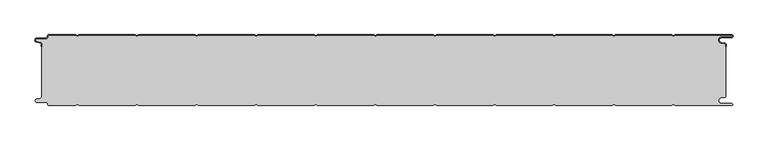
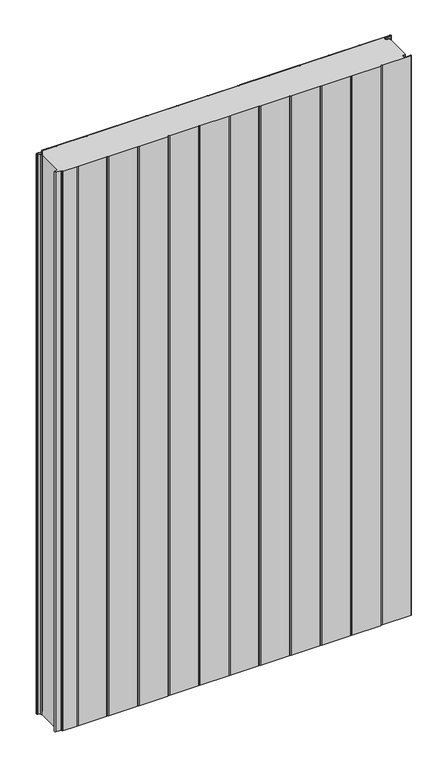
"""IFC4 building model written with IfcOpenShell, lengths in millimetres: plate geometry, PM1_Curtain-Panel_Perfil-Frigorífico : ACH_PM1_Panel-Acústico-Sectorización_120M."""

from ifc_helpers import new_model, si_unit, point, frame, frame_2d, origin, origin_with_axes, place, context, project, spatial, polyline, circle_curve, trimmed, segment, composite_curve, outline, extrude, source, transform, mapped, element, save
from ifc_brep_helpers import plane_surface, cylinder_surface, revolved_surface, advanced_brep


def plate_490ffd24(model_context):
    return source(origin(), model_context, "Body", "SolidModel", [
        advanced_brep(
        [(-575.0, -15.878557, 1945.7507136), (-575.0, -20.0, 1945.7507136), (-574.2, -20.0, 1945.7507136), (-574.2, -15.878557, 1945.7507136), (-576.370137, -13.1503208, 1945.7507136), (-582.529863, -11.728236, 1945.7507136), (-581.9, -6.2, 1945.7507136), (-566.4, -6.2, 1945.7507136), (-563.6, -3.4, 1945.7507136), (-563.6, -2.0, 1945.7507136), (-562.4, -0.8, 1945.7507136), (-517.3143588, -0.8, 1945.7507136), (-514.4, -2.482606, 1945.7507136), (-511.4856412, -0.8, 1945.7507136), (-417.3143588, -0.8, 1945.7507136), (-414.4, -2.482606, 1945.7507136), (-411.4856412, -0.8, 1945.7507136), (-317.3143588, -0.8, 1945.7507136), (-314.4, -2.482606, 1945.7507136), (-311.4856412, -0.8, 1945.7507136), (-217.3143588, -0.8, 1945.7507136), (-214.4, -2.482606, 1945.7507136), (-211.4856412, -0.8, 1945.7507136), (-117.3143588, -0.8, 1945.7507136), (-114.4, -2.482606, 1945.7507136), (-111.4856412, -0.8, 1945.7507136), (-17.3143588, -0.8, 1945.7507136), (-14.4, -2.482606, 1945.7507136), (-11.4856412, -0.8, 1945.7507136), (82.6856412, -0.8, 1945.7507136), (85.6, -2.482606, 1945.7507136), (88.5143588, -0.8, 1945.7507136), (182.6856412, -0.8, 1945.7507136), (185.6, -2.482606, 1945.7507136), (188.5143588, -0.8, 1945.7507136), (282.6856412, -0.8, 1945.7507136), (285.6, -2.482606, 1945.7507136), (288.5143588, -0.8, 1945.7507136), (382.6856412, -0.8, 1945.7507136), (385.6, -2.482606, 1945.7507136), (388.5143588, -0.8, 1945.7507136), (482.6856412, -0.8, 1945.7507136), (485.6, -2.482606, 1945.7507136), (488.5143588, -0.8, 1945.7507136), (583.1, -0.8, 1945.7507136), (583.1, -4.2, 1945.7507136), (566.1, -4.2, 1945.7507136), (565.2664884, -13.7270771, 1945.7507136), (571.7125669, -14.8636953, 1945.7507136), (573.2, -16.6363492, 1945.7507136), (573.2, -20.0, 1945.7507136), (574.0, -20.0, 1945.7507136), (574.0, -16.6363492, 1945.7507136), (571.8514855, -14.0758491, 1945.7507136), (565.405407, -12.939231, 1945.7507136), (566.1, -5.0, 1945.7507136), (583.1, -5.0, 1945.7507136), (585.6, -2.5, 1945.7507136), (583.1, 0.0, 1945.7507136), (488.2999995, 0.0, 1945.7507136), (485.6, -1.5588455, 1945.7507136), (482.9000005, 0.0, 1945.7507136), (388.2999995, 0.0, 1945.7507136), (385.6, -1.5588455, 1945.7507136), (382.9000005, 0.0, 1945.7507136), (288.2999995, 0.0, 1945.7507136), (285.6, -1.5588455, 1945.7507136), (282.9000005, 0.0, 1945.7507136), (188.2999995, 0.0, 1945.7507136), (185.6, -1.5588455, 1945.7507136), (182.9000005, 0.0, 1945.7507136), (88.2999995, 0.0, 1945.7507136), (85.6, -1.5588455, 1945.7507136), (82.9000005, 0.0, 1945.7507136), (-11.7000005, 0.0, 1945.7507136), (-14.4, -1.5588455, 1945.7507136), (-17.0999995, 0.0, 1945.7507136), (-111.7000005, 0.0, 1945.7507136), (-114.4, -1.5588455, 1945.7507136), (-117.0999995, 0.0, 1945.7507136), (-211.7000005, 0.0, 1945.7507136), (-214.4, -1.5588455, 1945.7507136), (-217.0999995, 0.0, 1945.7507136), (-311.7000005, 0.0, 1945.7507136), (-314.4, -1.5588455, 1945.7507136), (-317.0999995, 0.0, 1945.7507136), (-411.7000005, 0.0, 1945.7507136), (-414.4, -1.5588455, 1945.7507136), (-417.0999995, 0.0, 1945.7507136), (-511.7000005, 0.0, 1945.7507136), (-514.4, -1.5588455, 1945.7507136), (-517.0999995, 0.0, 1945.7507136), (-562.4, 0.0, 1945.7507136), (-564.4, -2.0, 1945.7507136), (-564.4, -3.4, 1945.7507136), (-566.4, -5.4, 1945.7507136), (-581.9, -5.4, 1945.7507136), (-582.7098239, -12.5077322, 1945.7507136), (-576.5500979, -13.929817, 1945.7507136), (-575.0, -15.878557, 0.0), (-576.5500978, -13.9298169, 0.0), (-582.7098239, -12.507732, 0.0), (-581.9, -5.4, 0.0), (-566.4, -5.4, 0.0), (-564.4, -3.4, 0.0), (-564.4, -2.0, 0.0), (-562.4, 0.0, 0.0), (-517.0999995, 0.0, 0.0), (-514.4, -1.5588455, 0.0), (-511.7000005, 0.0, 0.0), (-417.0999995, 0.0, 0.0), (-414.4, -1.5588455, 0.0), (-411.7000005, 0.0, 0.0), (-317.0999995, 0.0, 0.0), (-314.4, -1.5588455, 0.0), (-311.7000005, 0.0, 0.0), (-217.0999995, 0.0, 0.0), (-214.4, -1.5588455, 0.0), (-211.7000005, 0.0, 0.0), (-117.0999995, 0.0, 0.0), (-114.4, -1.5588455, 0.0), (-111.7000005, 0.0, 0.0), (-17.0999995, 0.0, 0.0), (-14.4, -1.5588455, 0.0), (-11.7000005, 0.0, 0.0), (82.9000005, 0.0, 0.0), (85.6, -1.5588455, 0.0), (88.2999995, 0.0, 0.0), (182.9000005, 0.0, 0.0), (185.6, -1.5588455, 0.0), (188.2999995, 0.0, 0.0), (282.9000005, 0.0, 0.0), (285.6, -1.5588455, 0.0), (288.2999995, 0.0, 0.0), (382.9000005, 0.0, 0.0), (385.6, -1.5588455, 0.0), (388.2999995, 0.0, 0.0), (482.9000005, 0.0, 0.0), (485.6, -1.5588455, 0.0), (488.2999995, 0.0, 0.0), (583.1, 0.0, 0.0), (585.6, -2.5, 0.0), (583.1, -5.0, 0.0), (566.1, -5.0, 0.0), (565.405407, -12.939231, 0.0), (571.8514855, -14.0758491, 0.0), (574.0, -16.6363492, 0.0), (574.0, -20.0, 0.0), (573.2, -20.0, 0.0), (573.2, -16.6363492, 0.0), (571.7125669, -14.8636953, 0.0), (565.2664884, -13.7270772, 0.0), (566.1, -4.2, 0.0), (583.1, -4.2, 0.0), (583.1, -0.8, 0.0), (488.5143588, -0.8, 0.0), (485.6, -2.482606, 0.0), (482.6856412, -0.8, 0.0), (388.5143588, -0.8, 0.0), (385.6, -2.482606, 0.0), (382.6856412, -0.8, 0.0), (288.5143588, -0.8, 0.0), (285.6, -2.482606, 0.0), (282.6856412, -0.8, 0.0), (188.5143588, -0.8, 0.0), (185.6, -2.482606, 0.0), (182.6856412, -0.8, 0.0), (88.5143588, -0.8, 0.0), (85.6, -2.482606, 0.0), (82.6856412, -0.8, 0.0), (-11.4856412, -0.8, 0.0), (-14.4, -2.482606, 0.0), (-17.3143588, -0.8, 0.0), (-111.4856412, -0.8, 0.0), (-114.4, -2.482606, 0.0), (-117.3143588, -0.8, 0.0), (-211.4856412, -0.8, 0.0), (-214.4, -2.482606, 0.0), (-217.3143588, -0.8, 0.0), (-311.4856412, -0.8, 0.0), (-314.4, -2.482606, 0.0), (-317.3143588, -0.8, 0.0), (-411.4856412, -0.8, 0.0), (-414.4, -2.482606, 0.0), (-417.3143588, -0.8, 0.0), (-511.4856412, -0.8, 0.0), (-514.4, -2.482606, 0.0), (-517.3143588, -0.8, 0.0), (-562.4, -0.8, 0.0), (-563.6, -2.0, 0.0), (-563.6, -3.4, 0.0), (-566.4, -6.2, 0.0), (-581.9, -6.2, 0.0), (-582.529863, -11.7282362, 0.0), (-576.370137, -13.150321, 0.0), (-574.2, -15.878557, 0.0), (-574.2, -20.0, 0.0), (-575.0, -20.0, 0.0)],
        [
            (0, 1),
            (1, 2),
            (2, 3),
            (3, 4, circle_curve(frame((-577.0, -15.878557, 1945.7507136), z_axis=(0.0, 0.0, 1.0), x_axis=(1.0, 0.0, 0.0)), 2.8)),
            (4, 5),
            (5, 6, circle_curve(frame((-581.9, -9.0, 1945.7507136), z_axis=(0.0, 0.0, -1.0), x_axis=(1.0, 0.0, 0.0)), 2.8)),
            (6, 7),
            (7, 8, circle_curve(frame((-566.4, -3.4, 1945.7507136), z_axis=(0.0, 0.0, 1.0), x_axis=(1.0, 0.0, 0.0)), 2.8)),
            (8, 9),
            (9, 10, circle_curve(frame((-562.4, -2.0, 1945.7507136), z_axis=(0.0, 0.0, -1.0), x_axis=(1.0, 0.0, 0.0)), 1.2)),
            (10, 11),
            (11, 12),
            (12, 13),
            (13, 14),
            (14, 15),
            (15, 16),
            (16, 17),
            (17, 18),
            (18, 19),
            (19, 20),
            (20, 21),
            (21, 22),
            (22, 23),
            (23, 24),
            (24, 25),
            (25, 26),
            (26, 27),
            (27, 28),
            (28, 29),
            (29, 30),
            (30, 31),
            (31, 32),
            (32, 33),
            (33, 34),
            (34, 35),
            (35, 36),
            (36, 37),
            (37, 38),
            (38, 39),
            (39, 40),
            (40, 41),
            (41, 42),
            (42, 43),
            (43, 44),
            (44, 45, circle_curve(frame((583.1, -2.5, 1945.7507136), z_axis=(0.0, 0.0, -1.0), x_axis=(1.0, 0.0, 0.0)), 1.7)),
            (45, 46),
            (46, 47, circle_curve(frame((566.1, -9.0, 1945.7507136), z_axis=(0.0, 0.0, 1.0), x_axis=(1.0, 0.0, 0.0)), 4.8)),
            (47, 48),
            (48, 49, circle_curve(frame((571.4, -16.6363492, 1945.7507136), z_axis=(0.0, 0.0, -1.0), x_axis=(1.0, 0.0, 0.0)), 1.8)),
            (49, 50),
            (50, 51),
            (51, 52),
            (52, 53, circle_curve(frame((571.4, -16.6363492, 1945.7507136), z_axis=(0.0, 0.0, 1.0), x_axis=(1.0, 0.0, 0.0)), 2.6)),
            (53, 54),
            (54, 55, circle_curve(frame((566.1, -9.0, 1945.7507136), z_axis=(0.0, 0.0, -1.0), x_axis=(1.0, 0.0, 0.0)), 4.0)),
            (55, 56),
            (56, 57, circle_curve(frame((583.1, -2.5, 1945.7507136), z_axis=(0.0, 0.0, 1.0), x_axis=(1.0, 0.0, 0.0)), 2.5)),
            (57, 58, circle_curve(frame((583.1, -2.5, 1945.7507136), z_axis=(0.0, 0.0, 1.0), x_axis=(1.0, 0.0, 0.0)), 2.5)),
            (58, 59),
            (59, 60),
            (60, 61),
            (61, 62),
            (62, 63),
            (63, 64),
            (64, 65),
            (65, 66),
            (66, 67),
            (67, 68),
            (68, 69),
            (69, 70),
            (70, 71),
            (71, 72),
            (72, 73),
            (73, 74),
            (74, 75),
            (75, 76),
            (76, 77),
            (77, 78),
            (78, 79),
            (79, 80),
            (80, 81),
            (81, 82),
            (82, 83),
            (83, 84),
            (84, 85),
            (85, 86),
            (86, 87),
            (87, 88),
            (88, 89),
            (89, 90),
            (90, 91),
            (91, 92),
            (92, 93, circle_curve(frame((-562.4, -2.0, 1945.7507136), z_axis=(0.0, 0.0, 1.0), x_axis=(1.0, 0.0, 0.0)), 2.0)),
            (93, 94),
            (94, 95, circle_curve(frame((-566.4, -3.4, 1945.7507136), z_axis=(0.0, 0.0, -1.0), x_axis=(1.0, 0.0, 0.0)), 2.0)),
            (95, 96),
            (96, 97, circle_curve(frame((-581.9, -9.0, 1945.7507136), z_axis=(0.0, 0.0, 1.0), x_axis=(1.0, 0.0, 0.0)), 3.6)),
            (97, 98),
            (98, 0, circle_curve(frame((-577.0, -15.878557, 1945.7507136), z_axis=(0.0, 0.0, -1.0), x_axis=(1.0, 0.0, 0.0)), 2.0)),
            (99, 100, circle_curve(frame((-577.0, -15.878557, 0.0), z_axis=(0.0, 0.0, 1.0), x_axis=(1.0, 0.0, 0.0)), 2.0)),
            (100, 101),
            (101, 102, circle_curve(frame((-581.9, -9.0, 0.0), z_axis=(0.0, 0.0, -1.0), x_axis=(1.0, 0.0, 0.0)), 3.6)),
            (102, 103),
            (103, 104, circle_curve(frame((-566.4, -3.4, 0.0), z_axis=(0.0, 0.0, 1.0), x_axis=(1.0, 0.0, 0.0)), 2.0)),
            (104, 105),
            (105, 106, circle_curve(frame((-562.4, -2.0, 0.0), z_axis=(0.0, 0.0, -1.0), x_axis=(1.0, 0.0, 0.0)), 2.0)),
            (106, 107),
            (107, 108),
            (108, 109),
            (109, 110),
            (110, 111),
            (111, 112),
            (112, 113),
            (113, 114),
            (114, 115),
            (115, 116),
            (116, 117),
            (117, 118),
            (118, 119),
            (119, 120),
            (120, 121),
            (121, 122),
            (122, 123),
            (123, 124),
            (124, 125),
            (125, 126),
            (126, 127),
            (127, 128),
            (128, 129),
            (129, 130),
            (130, 131),
            (131, 132),
            (132, 133),
            (133, 134),
            (134, 135),
            (135, 136),
            (136, 137),
            (137, 138),
            (138, 139),
            (139, 140),
            (140, 141, circle_curve(frame((583.1, -2.5, 0.0), z_axis=(0.0, 0.0, -1.0), x_axis=(1.0, 0.0, 0.0)), 2.5)),
            (141, 142, circle_curve(frame((583.1, -2.5, 0.0), z_axis=(0.0, 0.0, -1.0), x_axis=(1.0, 0.0, 0.0)), 2.5)),
            (142, 143),
            (143, 144, circle_curve(frame((566.1, -9.0, 0.0), z_axis=(0.0, 0.0, 1.0), x_axis=(1.0, 0.0, 0.0)), 4.0)),
            (144, 145),
            (145, 146, circle_curve(frame((571.4, -16.6363492, 0.0), z_axis=(0.0, 0.0, -1.0), x_axis=(1.0, 0.0, 0.0)), 2.6)),
            (146, 147),
            (147, 148),
            (148, 149),
            (149, 150, circle_curve(frame((571.4, -16.6363492, 0.0), z_axis=(0.0, 0.0, 1.0), x_axis=(1.0, 0.0, 0.0)), 1.8)),
            (150, 151),
            (151, 152, circle_curve(frame((566.1, -9.0, 0.0), z_axis=(0.0, 0.0, -1.0), x_axis=(1.0, 0.0, 0.0)), 4.8)),
            (152, 153),
            (153, 154, circle_curve(frame((583.1, -2.5, 0.0), z_axis=(0.0, 0.0, 1.0), x_axis=(1.0, 0.0, 0.0)), 1.7)),
            (154, 155),
            (155, 156),
            (156, 157),
            (157, 158),
            (158, 159),
            (159, 160),
            (160, 161),
            (161, 162),
            (162, 163),
            (163, 164),
            (164, 165),
            (165, 166),
            (166, 167),
            (167, 168),
            (168, 169),
            (169, 170),
            (170, 171),
            (171, 172),
            (172, 173),
            (173, 174),
            (174, 175),
            (175, 176),
            (176, 177),
            (177, 178),
            (178, 179),
            (179, 180),
            (180, 181),
            (181, 182),
            (182, 183),
            (183, 184),
            (184, 185),
            (185, 186),
            (186, 187),
            (187, 188),
            (188, 189, circle_curve(frame((-562.4, -2.0, 0.0), z_axis=(0.0, 0.0, 1.0), x_axis=(1.0, 0.0, 0.0)), 1.2)),
            (189, 190),
            (190, 191, circle_curve(frame((-566.4, -3.4, 0.0), z_axis=(0.0, 0.0, -1.0), x_axis=(1.0, 0.0, 0.0)), 2.8)),
            (191, 192),
            (192, 193, circle_curve(frame((-581.9, -9.0, 0.0), z_axis=(0.0, 0.0, 1.0), x_axis=(1.0, 0.0, 0.0)), 2.8)),
            (193, 194),
            (194, 195, circle_curve(frame((-577.0, -15.878557, 0.0), z_axis=(0.0, 0.0, -1.0), x_axis=(1.0, 0.0, 0.0)), 2.8)),
            (195, 196),
            (196, 197),
            (197, 99),
            (0, 99),
            (197, 1),
            (196, 2),
            (195, 3),
            (194, 4),
            (193, 5),
            (192, 6),
            (191, 7),
            (190, 8),
            (189, 9),
            (188, 10),
            (187, 11),
            (186, 12),
            (185, 13),
            (184, 14),
            (183, 15),
            (182, 16),
            (181, 17),
            (180, 18),
            (179, 19),
            (178, 20),
            (177, 21),
            (176, 22),
            (175, 23),
            (174, 24),
            (173, 25),
            (172, 26),
            (171, 27),
            (170, 28),
            (169, 29),
            (168, 30),
            (167, 31),
            (166, 32),
            (165, 33),
            (164, 34),
            (163, 35),
            (162, 36),
            (161, 37),
            (160, 38),
            (159, 39),
            (158, 40),
            (157, 41),
            (156, 42),
            (155, 43),
            (154, 44),
            (153, 45),
            (152, 46),
            (151, 47),
            (150, 48),
            (149, 49),
            (148, 50),
            (147, 51),
            (146, 52),
            (145, 53),
            (144, 54),
            (143, 55),
            (142, 56),
            (140, 58),
            (139, 59),
            (138, 60),
            (137, 61),
            (136, 62),
            (135, 63),
            (134, 64),
            (133, 65),
            (132, 66),
            (131, 67),
            (130, 68),
            (129, 69),
            (128, 70),
            (127, 71),
            (126, 72),
            (125, 73),
            (124, 74),
            (123, 75),
            (122, 76),
            (121, 77),
            (120, 78),
            (119, 79),
            (118, 80),
            (117, 81),
            (116, 82),
            (115, 83),
            (114, 84),
            (113, 85),
            (112, 86),
            (111, 87),
            (110, 88),
            (109, 89),
            (108, 90),
            (107, 91),
            (106, 92),
            (105, 93),
            (104, 94),
            (103, 95),
            (102, 96),
            (101, 97),
            (100, 98),
        ],
        [
            plane_surface(frame((-575.0, 0.0, 1945.7507136), z_axis=(0.0, 0.0, 1.0), x_axis=(0.0, 1.0, 0.0))),
            plane_surface(frame((-575.0, 0.0, 0.0), z_axis=(0.0, 0.0, -1.0), x_axis=(0.0, 1.0, 0.0))),
            plane_surface(frame((-575.0, -15.878557, 1945.7507136), z_axis=(-1.0, 0.0, 0.0), x_axis=(0.0, 0.0, -1.0))),
            plane_surface(frame((-575.0, -20.0, 1945.7507136), z_axis=(0.0, -1.0, 0.0), x_axis=(0.0, 0.0, -1.0))),
            plane_surface(frame((-574.2, -20.0, 1945.7507136), z_axis=(1.0, 0.0, 0.0), x_axis=(0.0, 0.0, -1.0))),
            cylinder_surface(frame((-577.0, -15.878557, 1945.7507136), z_axis=(0.0, 0.0, 1.0), x_axis=(1.0, 0.0, 0.0)), 2.8),
            plane_surface(frame((-576.370137, -13.150321, 1945.7507136), z_axis=(0.22495108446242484, 0.9743700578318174, 0.0), x_axis=(0.0, 0.0, -1.0))),
            revolved_surface(polyline([(-579.1, -9.0, 0.0), (-579.1, -9.0, 1945.7507136)]), (-581.9, -9.0, 1945.7507136), (0.0, 0.0, -1.0)),
            plane_surface(frame((-581.9, -6.2, 1945.7507136), z_axis=(0.0, -1.0, 0.0), x_axis=(0.0, 0.0, -1.0))),
            cylinder_surface(frame((-566.4, -3.4, 1945.7507136), z_axis=(0.0, 0.0, 1.0), x_axis=(1.0, 0.0, 0.0)), 2.8),
            plane_surface(frame((-563.6, -3.4, 1945.7507136), z_axis=(1.0, 0.0, 0.0), x_axis=(0.0, 0.0, -1.0))),
            revolved_surface(polyline([(-561.1999999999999, -2.0, 0.0), (-561.1999999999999, -2.0, 1945.7507136)]), (-562.4, -2.0, 1945.7507136), (0.0, 0.0, -1.0)),
            plane_surface(frame((-562.4, -0.8, 1945.7507136), z_axis=(0.0, -1.0, 0.0), x_axis=(0.0, 0.0, -1.0))),
            plane_surface(frame((-517.3143588, -0.8, 1945.7507136), z_axis=(-0.5000000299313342, -0.8660253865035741, 0.0), x_axis=(0.0, 0.0, -1.0))),
            plane_surface(frame((-514.4, -2.482606, 1945.7507136), z_axis=(0.5000000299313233, -0.8660253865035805, 0.0), x_axis=(0.0, 0.0, -1.0))),
            plane_surface(frame((-511.4856412, -0.8, 1945.7507136), z_axis=(0.0, -1.0, 0.0), x_axis=(0.0, 0.0, -1.0))),
            plane_surface(frame((-417.3143588, -0.8, 1945.7507136), z_axis=(-0.5000000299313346, -0.8660253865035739, 0.0), x_axis=(0.0, 0.0, -1.0))),
            plane_surface(frame((-414.4, -2.482606, 1945.7507136), z_axis=(0.5000000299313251, -0.8660253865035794, 0.0), x_axis=(0.0, 0.0, -1.0))),
            plane_surface(frame((-411.4856412, -0.8, 1945.7507136), z_axis=(0.0, -1.0, 0.0), x_axis=(0.0, 0.0, -1.0))),
            plane_surface(frame((-317.3143588, -0.8, 1945.7507136), z_axis=(-0.5000000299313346, -0.866025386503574, 0.0), x_axis=(0.0, 0.0, -1.0))),
            plane_surface(frame((-314.4, -2.482606, 1945.7507136), z_axis=(0.5000000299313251, -0.8660253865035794, 0.0), x_axis=(0.0, 0.0, -1.0))),
            plane_surface(frame((-311.4856412, -0.8, 1945.7507136), z_axis=(0.0, -1.0, 0.0), x_axis=(0.0, 0.0, -1.0))),
            plane_surface(frame((-217.3143588, -0.8, 1945.7507136), z_axis=(-0.5000000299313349, -0.8660253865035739, 0.0), x_axis=(0.0, 0.0, -1.0))),
            plane_surface(frame((-214.4, -2.482606, 1945.7507136), z_axis=(0.5000000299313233, -0.8660253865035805, 0.0), x_axis=(0.0, 0.0, -1.0))),
            plane_surface(frame((-211.4856412, -0.8, 1945.7507136), z_axis=(0.0, -1.0, 0.0), x_axis=(0.0, 0.0, -1.0))),
            plane_surface(frame((-117.3143588, -0.8, 1945.7507136), z_axis=(-0.5000000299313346, -0.866025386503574, 0.0), x_axis=(0.0, 0.0, -1.0))),
            plane_surface(frame((-114.4, -2.482606, 1945.7507136), z_axis=(0.5000000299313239, -0.8660253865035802, 0.0), x_axis=(0.0, 0.0, -1.0))),
            plane_surface(frame((-111.4856412, -0.8, 1945.7507136), z_axis=(0.0, -1.0, 0.0), x_axis=(0.0, 0.0, -1.0))),
            plane_surface(frame((-17.3143588, -0.8, 1945.7507136), z_axis=(-0.5000000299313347, -0.8660253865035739, 0.0), x_axis=(0.0, 0.0, -1.0))),
            plane_surface(frame((-14.4, -2.482606, 1945.7507136), z_axis=(0.5000000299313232, -0.8660253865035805, 0.0), x_axis=(0.0, 0.0, -1.0))),
            plane_surface(frame((-11.4856412, -0.8, 1945.7507136), z_axis=(0.0, -1.0, 0.0), x_axis=(0.0, 0.0, -1.0))),
            plane_surface(frame((82.6856412, -0.8, 1945.7507136), z_axis=(-0.5000000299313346, -0.866025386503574, 0.0), x_axis=(0.0, 0.0, -1.0))),
            plane_surface(frame((85.6, -2.482606, 1945.7507136), z_axis=(0.5000000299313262, -0.8660253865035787, 0.0), x_axis=(0.0, 0.0, -1.0))),
            plane_surface(frame((88.5143588, -0.8, 1945.7507136), z_axis=(0.0, -1.0, 0.0), x_axis=(0.0, 0.0, -1.0))),
            plane_surface(frame((182.6856412, -0.8, 1945.7507136), z_axis=(-0.5000000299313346, -0.8660253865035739, 0.0), x_axis=(0.0, 0.0, -1.0))),
            plane_surface(frame((185.6, -2.482606, 1945.7507136), z_axis=(0.5000000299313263, -0.8660253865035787, 0.0), x_axis=(0.0, 0.0, -1.0))),
            plane_surface(frame((188.5143588, -0.8, 1945.7507136), z_axis=(0.0, -1.0, 0.0), x_axis=(0.0, 0.0, -1.0))),
            plane_surface(frame((282.6856412, -0.8, 1945.7507136), z_axis=(-0.5000000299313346, -0.8660253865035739, 0.0), x_axis=(0.0, 0.0, -1.0))),
            plane_surface(frame((285.6, -2.482606, 1945.7507136), z_axis=(0.5000000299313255, -0.8660253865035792, 0.0), x_axis=(0.0, 0.0, -1.0))),
            plane_surface(frame((288.5143588, -0.8, 1945.7507136), z_axis=(0.0, -1.0, 0.0), x_axis=(0.0, 0.0, -1.0))),
            plane_surface(frame((382.6856412, -0.8, 1945.7507136), z_axis=(-0.5000000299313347, -0.8660253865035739, 0.0), x_axis=(0.0, 0.0, -1.0))),
            plane_surface(frame((385.6, -2.482606, 1945.7507136), z_axis=(0.5000000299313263, -0.8660253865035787, 0.0), x_axis=(0.0, 0.0, -1.0))),
            plane_surface(frame((388.5143588, -0.8, 1945.7507136), z_axis=(0.0, -1.0, 0.0), x_axis=(0.0, 0.0, -1.0))),
            plane_surface(frame((482.6856412, -0.8, 1945.7507136), z_axis=(-0.5000000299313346, -0.866025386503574, 0.0), x_axis=(0.0, 0.0, -1.0))),
            plane_surface(frame((485.6, -2.482606, 1945.7507136), z_axis=(0.5000000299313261, -0.8660253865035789, 0.0), x_axis=(0.0, 0.0, -1.0))),
            plane_surface(frame((535.6, -0.8, 1945.7507136), z_axis=(0.0, -1.0, 0.0), x_axis=(0.0, 0.0, -1.0))),
            revolved_surface(polyline([(584.8000000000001, -2.5, 0.0), (584.8000000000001, -2.5, 1945.7507136)]), (583.1, -2.5, 1945.7507136), (0.0, 0.0, -1.0)),
            plane_surface(frame((583.1, -4.2, 1945.7507136), z_axis=(0.0, 1.0, 0.0), x_axis=(0.0, 0.0, -1.0))),
            cylinder_surface(frame((566.1, -9.0, 1945.7507136), z_axis=(0.0, 0.0, 1.0), x_axis=(1.0, 0.0, 0.0)), 4.8),
            plane_surface(frame((565.2664884, -13.7270772, 1945.7507136), z_axis=(-0.17364825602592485, -0.9848077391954, 0.0), x_axis=(0.0, 0.0, -1.0))),
            revolved_surface(polyline([(573.1999999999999, -16.6363492, 0.0), (573.1999999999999, -16.6363492, 1945.7507136)]), (571.4, -16.6363492, 1945.7507136), (0.0, 0.0, -1.0)),
            plane_surface(frame((573.2, -16.6363492, 1945.7507136), z_axis=(-1.0, 0.0, 0.0), x_axis=(0.0, 0.0, -1.0))),
            plane_surface(frame((573.2, -20.0, 1945.7507136), z_axis=(0.0, -1.0, 0.0), x_axis=(0.0, 0.0, -1.0))),
            plane_surface(frame((574.0, -20.0, 1945.7507136), z_axis=(1.0, 0.0, 0.0), x_axis=(0.0, 0.0, -1.0))),
            cylinder_surface(frame((571.4, -16.6363492, 1945.7507136), z_axis=(0.0, 0.0, 1.0), x_axis=(1.0, 0.0, 0.0)), 2.6),
            plane_surface(frame((571.8514855, -14.0758491, 1945.7507136), z_axis=(0.1736482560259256, 0.9848077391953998, 0.0), x_axis=(0.0, 0.0, -1.0))),
            revolved_surface(polyline([(570.1, -9.0, 0.0), (570.1, -9.0, 1945.7507136)]), (566.1, -9.0, 1945.7507136), (0.0, 0.0, -1.0)),
            plane_surface(frame((566.1, -5.0, 1945.7507136), z_axis=(0.0, -1.0, 0.0), x_axis=(0.0, 0.0, -1.0))),
            cylinder_surface(frame((583.1, -2.5, 1945.7507136), z_axis=(0.0, 0.0, 1.0), x_axis=(1.0, 0.0, 0.0)), 2.5),
            plane_surface(frame((535.6, 0.0, 1945.7507136), z_axis=(0.0, 1.0, 0.0), x_axis=(0.0, 0.0, -1.0))),
            plane_surface(frame((488.2999995, 0.0, 1945.7507136), z_axis=(-0.5000000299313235, 0.8660253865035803, 0.0), x_axis=(0.0, 0.0, -1.0))),
            plane_surface(frame((485.6, -1.5588455, 1945.7507136), z_axis=(0.5000000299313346, 0.8660253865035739, 0.0), x_axis=(0.0, 0.0, -1.0))),
            plane_surface(frame((482.9000005, 0.0, 1945.7507136), z_axis=(0.0, 1.0, 0.0), x_axis=(0.0, 0.0, -1.0))),
            plane_surface(frame((388.2999995, 0.0, 1945.7507136), z_axis=(-0.5000000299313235, 0.8660253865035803, 0.0), x_axis=(0.0, 0.0, -1.0))),
            plane_surface(frame((385.6, -1.5588455, 1945.7507136), z_axis=(0.5000000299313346, 0.8660253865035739, 0.0), x_axis=(0.0, 0.0, -1.0))),
            plane_surface(frame((382.9000005, 0.0, 1945.7507136), z_axis=(0.0, 1.0, 0.0), x_axis=(0.0, 0.0, -1.0))),
            plane_surface(frame((288.2999995, 0.0, 1945.7507136), z_axis=(-0.5000000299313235, 0.8660253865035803, 0.0), x_axis=(0.0, 0.0, -1.0))),
            plane_surface(frame((285.6, -1.5588455, 1945.7507136), z_axis=(0.5000000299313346, 0.8660253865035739, 0.0), x_axis=(0.0, 0.0, -1.0))),
            plane_surface(frame((282.9000005, 0.0, 1945.7507136), z_axis=(0.0, 1.0, 0.0), x_axis=(0.0, 0.0, -1.0))),
            plane_surface(frame((188.2999995, 0.0, 1945.7507136), z_axis=(-0.5000000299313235, 0.8660253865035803, 0.0), x_axis=(0.0, 0.0, -1.0))),
            plane_surface(frame((185.6, -1.5588455, 1945.7507136), z_axis=(0.5000000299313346, 0.8660253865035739, 0.0), x_axis=(0.0, 0.0, -1.0))),
            plane_surface(frame((182.9000005, 0.0, 1945.7507136), z_axis=(0.0, 1.0, 0.0), x_axis=(0.0, 0.0, -1.0))),
            plane_surface(frame((88.2999995, 0.0, 1945.7507136), z_axis=(-0.5000000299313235, 0.8660253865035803, 0.0), x_axis=(0.0, 0.0, -1.0))),
            plane_surface(frame((85.6, -1.5588455, 1945.7507136), z_axis=(0.5000000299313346, 0.8660253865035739, 0.0), x_axis=(0.0, 0.0, -1.0))),
            plane_surface(frame((82.9000005, 0.0, 1945.7507136), z_axis=(0.0, 1.0, 0.0), x_axis=(0.0, 0.0, -1.0))),
            plane_surface(frame((-11.7000005, 0.0, 1945.7507136), z_axis=(-0.5000000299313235, 0.8660253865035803, 0.0), x_axis=(0.0, 0.0, -1.0))),
            plane_surface(frame((-14.4, -1.5588455, 1945.7507136), z_axis=(0.5000000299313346, 0.8660253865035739, 0.0), x_axis=(0.0, 0.0, -1.0))),
            plane_surface(frame((-17.0999995, 0.0, 1945.7507136), z_axis=(0.0, 1.0, 0.0), x_axis=(0.0, 0.0, -1.0))),
            plane_surface(frame((-111.7000005, 0.0, 1945.7507136), z_axis=(-0.5000000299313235, 0.8660253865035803, 0.0), x_axis=(0.0, 0.0, -1.0))),
            plane_surface(frame((-114.4, -1.5588455, 1945.7507136), z_axis=(0.5000000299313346, 0.8660253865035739, 0.0), x_axis=(0.0, 0.0, -1.0))),
            plane_surface(frame((-117.0999995, 0.0, 1945.7507136), z_axis=(0.0, 1.0, 0.0), x_axis=(0.0, 0.0, -1.0))),
            plane_surface(frame((-211.7000005, 0.0, 1945.7507136), z_axis=(-0.5000000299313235, 0.8660253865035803, 0.0), x_axis=(0.0, 0.0, -1.0))),
            plane_surface(frame((-214.4, -1.5588455, 1945.7507136), z_axis=(0.5000000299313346, 0.8660253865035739, 0.0), x_axis=(0.0, 0.0, -1.0))),
            plane_surface(frame((-217.0999995, 0.0, 1945.7507136), z_axis=(0.0, 1.0, 0.0), x_axis=(0.0, 0.0, -1.0))),
            plane_surface(frame((-311.7000005, 0.0, 1945.7507136), z_axis=(-0.5000000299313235, 0.8660253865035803, 0.0), x_axis=(0.0, 0.0, -1.0))),
            plane_surface(frame((-314.4, -1.5588455, 1945.7507136), z_axis=(0.5000000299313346, 0.8660253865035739, 0.0), x_axis=(0.0, 0.0, -1.0))),
            plane_surface(frame((-317.0999995, 0.0, 1945.7507136), z_axis=(0.0, 1.0, 0.0), x_axis=(0.0, 0.0, -1.0))),
            plane_surface(frame((-411.7000005, 0.0, 1945.7507136), z_axis=(-0.5000000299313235, 0.8660253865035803, 0.0), x_axis=(0.0, 0.0, -1.0))),
            plane_surface(frame((-414.4, -1.5588455, 1945.7507136), z_axis=(0.5000000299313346, 0.8660253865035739, 0.0), x_axis=(0.0, 0.0, -1.0))),
            plane_surface(frame((-417.0999995, 0.0, 1945.7507136), z_axis=(0.0, 1.0, 0.0), x_axis=(0.0, 0.0, -1.0))),
            plane_surface(frame((-511.7000005, 0.0, 1945.7507136), z_axis=(-0.5000000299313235, 0.8660253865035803, 0.0), x_axis=(0.0, 0.0, -1.0))),
            plane_surface(frame((-514.4, -1.5588455, 1945.7507136), z_axis=(0.5000000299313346, 0.8660253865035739, 0.0), x_axis=(0.0, 0.0, -1.0))),
            plane_surface(frame((-517.0999995, 0.0, 1945.7507136), z_axis=(0.0, 1.0, 0.0), x_axis=(0.0, 0.0, -1.0))),
            cylinder_surface(frame((-562.4, -2.0, 1945.7507136), z_axis=(0.0, 0.0, 1.0), x_axis=(1.0, 0.0, 0.0)), 2.0),
            plane_surface(frame((-564.4, -2.0, 1945.7507136), z_axis=(-1.0, 0.0, 0.0), x_axis=(0.0, 0.0, -1.0))),
            revolved_surface(polyline([(-564.4, -3.4, 0.0), (-564.4, -3.4, 1945.7507136)]), (-566.4, -3.4, 1945.7507136), (0.0, 0.0, -1.0)),
            plane_surface(frame((-566.4, -5.4, 1945.7507136), z_axis=(0.0, 1.0, 0.0), x_axis=(0.0, 0.0, -1.0))),
            cylinder_surface(frame((-581.9, -9.0, 1945.7507136), z_axis=(0.0, 0.0, 1.0), x_axis=(1.0, 0.0, 0.0)), 3.6),
            plane_surface(frame((-582.7098239, -12.507732, 1945.7507136), z_axis=(-0.22495108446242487, -0.9743700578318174, 0.0), x_axis=(0.0, 0.0, -1.0))),
            revolved_surface(polyline([(-575.0, -15.878557, 0.0), (-575.0, -15.878557, 1945.7507136)]), (-577.0, -15.878557, 1945.7507136), (0.0, 0.0, -1.0)),
        ],
        [
            (0, [[1, 2, 3, 4, 5, 6, 7, 8, 9, 10, 11, 12, 13, 14, 15, 16, 17, 18, 19, 20, 21, 22, 23, 24, 25, 26, 27, 28, 29, 30, 31, 32, 33, 34, 35, 36, 37, 38, 39, 40, 41, 42, 43, 44, 45, 46, 47, 48, 49, 50, 51, 52, 53, 54, 55, 56, 57, 58, 59, 60, 61, 62, 63, 64, 65, 66, 67, 68, 69, 70, 71, 72, 73, 74, 75, 76, 77, 78, 79, 80, 81, 82, 83, 84, 85, 86, 87, 88, 89, 90, 91, 92, 93, 94, 95, 96, 97, 98, 99]]),
            (1, [[100, 101, 102, 103, 104, 105, 106, 107, 108, 109, 110, 111, 112, 113, 114, 115, 116, 117, 118, 119, 120, 121, 122, 123, 124, 125, 126, 127, 128, 129, 130, 131, 132, 133, 134, 135, 136, 137, 138, 139, 140, 141, 142, 143, 144, 145, 146, 147, 148, 149, 150, 151, 152, 153, 154, 155, 156, 157, 158, 159, 160, 161, 162, 163, 164, 165, 166, 167, 168, 169, 170, 171, 172, 173, 174, 175, 176, 177, 178, 179, 180, 181, 182, 183, 184, 185, 186, 187, 188, 189, 190, 191, 192, 193, 194, 195, 196, 197, 198]]),
            (2, [[-1, 199, -198, 200]]),
            (3, [[-2, -200, -197, 201]]),
            (4, [[-3, -201, -196, 202]]),
            (5, [[-4, -202, -195, 203]]),
            (6, [[-5, -203, -194, 204]]),
            (7, [[-6, -204, -193, 205]]),
            (8, [[-7, -205, -192, 206]]),
            (9, [[-8, -206, -191, 207]]),
            (10, [[-9, -207, -190, 208]]),
            (11, [[-10, -208, -189, 209]]),
            (12, [[-11, -209, -188, 210]]),
            (13, [[-12, -210, -187, 211]]),
            (14, [[-13, -211, -186, 212]]),
            (15, [[-14, -212, -185, 213]]),
            (16, [[-15, -213, -184, 214]]),
            (17, [[-16, -214, -183, 215]]),
            (18, [[-17, -215, -182, 216]]),
            (19, [[-18, -216, -181, 217]]),
            (20, [[-19, -217, -180, 218]]),
            (21, [[-20, -218, -179, 219]]),
            (22, [[-21, -219, -178, 220]]),
            (23, [[-22, -220, -177, 221]]),
            (24, [[-23, -221, -176, 222]]),
            (25, [[-24, -222, -175, 223]]),
            (26, [[-25, -223, -174, 224]]),
            (27, [[-26, -224, -173, 225]]),
            (28, [[-27, -225, -172, 226]]),
            (29, [[-28, -226, -171, 227]]),
            (30, [[-29, -227, -170, 228]]),
            (31, [[-30, -228, -169, 229]]),
            (32, [[-31, -229, -168, 230]]),
            (33, [[-32, -230, -167, 231]]),
            (34, [[-33, -231, -166, 232]]),
            (35, [[-34, -232, -165, 233]]),
            (36, [[-35, -233, -164, 234]]),
            (37, [[-36, -234, -163, 235]]),
            (38, [[-37, -235, -162, 236]]),
            (39, [[-38, -236, -161, 237]]),
            (40, [[-39, -237, -160, 238]]),
            (41, [[-40, -238, -159, 239]]),
            (42, [[-41, -239, -158, 240]]),
            (43, [[-42, -240, -157, 241]]),
            (44, [[-43, -241, -156, 242]]),
            (45, [[-44, -242, -155, 243]]),
            (46, [[-45, -243, -154, 244]]),
            (47, [[-46, -244, -153, 245]]),
            (48, [[-47, -245, -152, 246]]),
            (49, [[-48, -246, -151, 247]]),
            (50, [[-49, -247, -150, 248]]),
            (51, [[-50, -248, -149, 249]]),
            (52, [[-51, -249, -148, 250]]),
            (53, [[-52, -250, -147, 251]]),
            (54, [[-53, -251, -146, 252]]),
            (55, [[-54, -252, -145, 253]]),
            (56, [[-55, -253, -144, 254]]),
            (57, [[-56, -254, -143, 255]]),
            (58, [[-255, -142, -141, 256, -58, -57]]),
            (59, [[-59, -256, -140, 257]]),
            (60, [[-60, -257, -139, 258]]),
            (61, [[-61, -258, -138, 259]]),
            (62, [[-62, -259, -137, 260]]),
            (63, [[-63, -260, -136, 261]]),
            (64, [[-64, -261, -135, 262]]),
            (65, [[-65, -262, -134, 263]]),
            (66, [[-66, -263, -133, 264]]),
            (67, [[-67, -264, -132, 265]]),
            (68, [[-68, -265, -131, 266]]),
            (69, [[-69, -266, -130, 267]]),
            (70, [[-70, -267, -129, 268]]),
            (71, [[-71, -268, -128, 269]]),
            (72, [[-72, -269, -127, 270]]),
            (73, [[-73, -270, -126, 271]]),
            (74, [[-74, -271, -125, 272]]),
            (75, [[-75, -272, -124, 273]]),
            (76, [[-76, -273, -123, 274]]),
            (77, [[-77, -274, -122, 275]]),
            (78, [[-78, -275, -121, 276]]),
            (79, [[-79, -276, -120, 277]]),
            (80, [[-80, -277, -119, 278]]),
            (81, [[-81, -278, -118, 279]]),
            (82, [[-82, -279, -117, 280]]),
            (83, [[-83, -280, -116, 281]]),
            (84, [[-84, -281, -115, 282]]),
            (85, [[-85, -282, -114, 283]]),
            (86, [[-86, -283, -113, 284]]),
            (87, [[-87, -284, -112, 285]]),
            (88, [[-88, -285, -111, 286]]),
            (89, [[-89, -286, -110, 287]]),
            (90, [[-90, -287, -109, 288]]),
            (91, [[-91, -288, -108, 289]]),
            (92, [[-92, -289, -107, 290]]),
            (93, [[-93, -290, -106, 291]]),
            (94, [[-94, -291, -105, 292]]),
            (95, [[-95, -292, -104, 293]]),
            (96, [[-96, -293, -103, 294]]),
            (97, [[-97, -294, -102, 295]]),
            (98, [[-98, -295, -101, 296]]),
            (99, [[-99, -296, -100, -199]]),
        ],
    ),
        extrude(outline(composite_curve([segment(polyline([(-574.2, -104.1214426), (-574.2, -15.8785573)]), True, "CONTINUOUS"), segment(trimmed(circle_curve(frame_2d((-577.0, -15.8785573)), 2.8), [point((-574.2, -15.8785573))], [point((-576.370137, -13.1503212))], True, "CARTESIAN"), True, "CONTINUOUS"), segment(polyline([(-576.370137, -13.1503212), (-582.5298631, -11.7282362)]), True, "CONTINUOUS"), segment(trimmed(circle_curve(frame_2d((-581.9, -9.0)), 2.8), [point((-582.5298631, -11.7282362))], [point((-581.9, -6.2))], False, "CARTESIAN"), True, "CONTINUOUS"), segment(polyline([(-581.9, -6.2), (-566.4000001, -6.2)]), True, "CONTINUOUS"), segment(trimmed(circle_curve(frame_2d((-566.4000001, -3.4)), 2.8), [point((-566.4000001, -6.2))], [point((-563.6000001, -3.4))], True, "CARTESIAN"), True, "CONTINUOUS"), segment(polyline([(-563.6000001, -3.4), (-563.6000001, -2.0)]), True, "CONTINUOUS"), segment(trimmed(circle_curve(frame_2d((-562.4000001, -2.0)), 1.2), [point((-563.6000001, -2.0))], [point((-562.4000001, -0.8))], False, "CARTESIAN"), True, "CONTINUOUS"), segment(polyline([(-562.4000001, -0.8), (-517.3143589, -0.8), (-514.4000001, -2.482606), (-511.4856412, -0.8), (-417.3143589, -0.8), (-414.4000001, -2.482606), (-411.4856412, -0.8), (-317.3143589, -0.8), (-314.4000001, -2.482606), (-311.4856412, -0.8), (-217.3143589, -0.8), (-214.4000001, -2.482606), (-211.4856412, -0.8), (-117.3143589, -0.8), (-114.4000001, -2.482606), (-111.4856412, -0.8), (-17.3143589, -0.8), (-14.4000001, -2.482606), (-11.4856412, -0.8), (82.6856411, -0.8), (85.5999999, -2.482606), (88.5143588, -0.8), (182.6856411, -0.8), (185.5999999, -2.482606), (188.5143588, -0.8), (282.6856411, -0.8), (285.5999999, -2.482606), (288.5143588, -0.8), (382.6856411, -0.8), (385.5999999, -2.482606), (388.5143588, -0.8), (482.6856411, -0.8), (485.6, -2.482606), (488.5143588, -0.8), (583.1, -0.8)]), True, "CONTINUOUS"), segment(trimmed(circle_curve(frame_2d((583.1, -2.5)), 1.7), [point((583.1, -0.8))], [point((583.1, -4.2))], False, "CARTESIAN"), True, "CONTINUOUS"), segment(polyline([(583.1, -4.2), (566.1, -4.2)]), True, "CONTINUOUS"), segment(trimmed(circle_curve(frame_2d((566.1, -9.0)), 4.8), [point((566.1, -4.2))], [point((565.2664883, -13.7270771))], True, "CARTESIAN"), True, "CONTINUOUS"), segment(polyline([(565.2664883, -13.7270771), (571.7125668, -14.8636953)]), True, "CONTINUOUS"), segment(trimmed(circle_curve(frame_2d((571.4, -16.6363492)), 1.8), [point((571.7125668, -14.8636953))], [point((573.2, -16.6363492))], False, "CARTESIAN"), True, "CONTINUOUS"), segment(polyline([(573.2, -16.6363492), (573.2, -103.3636508)]), True, "CONTINUOUS"), segment(trimmed(circle_curve(frame_2d((571.4, -103.3636508)), 1.8), [point((573.2, -103.3636508))], [point((571.7125668, -105.1363047))], False, "CARTESIAN"), True, "CONTINUOUS"), segment(polyline([(571.7125668, -105.1363047), (565.2664883, -106.2729229)]), True, "CONTINUOUS"), segment(trimmed(circle_curve(frame_2d((566.1, -111.0)), 4.8), [point((565.2664883, -106.2729229))], [point((566.1, -115.8))], True, "CARTESIAN"), True, "CONTINUOUS"), segment(polyline([(566.1, -115.8), (583.1, -115.8)]), True, "CONTINUOUS"), segment(trimmed(circle_curve(frame_2d((583.1, -117.5)), 1.7), [point((583.1, -115.8))], [point((583.1, -119.2))], False, "CARTESIAN"), True, "CONTINUOUS"), segment(polyline([(583.1, -119.2), (488.5143588, -119.2), (485.6, -117.517394), (482.6856411, -119.2), (388.5143588, -119.2), (385.5999999, -117.517394), (382.6856411, -119.2), (288.5143588, -119.2), (285.5999999, -117.517394), (282.6856411, -119.2), (188.5143588, -119.2), (185.5999999, -117.517394), (182.6856411, -119.2), (88.5143588, -119.2), (85.5999999, -117.517394), (82.6856411, -119.2), (-11.4856412, -119.2), (-14.4000001, -117.517394), (-17.3143589, -119.2), (-111.4856412, -119.2), (-114.4000001, -117.517394), (-117.3143589, -119.2), (-211.4856412, -119.2), (-214.4000001, -117.517394), (-217.3143589, -119.2), (-311.4856412, -119.2), (-314.4000001, -117.517394), (-317.3143589, -119.2), (-411.4856412, -119.2), (-414.4000001, -117.517394), (-417.3143589, -119.2), (-511.4856412, -119.2), (-514.4000001, -117.517394), (-517.3143589, -119.2), (-562.4000001, -119.2)]), True, "CONTINUOUS"), segment(trimmed(circle_curve(frame_2d((-562.4000001, -118.0)), 1.2), [point((-562.4000001, -119.2))], [point((-563.6000001, -118.0))], False, "CARTESIAN"), True, "CONTINUOUS"), segment(polyline([(-563.6000001, -118.0), (-563.6000001, -116.6)]), True, "CONTINUOUS"), segment(trimmed(circle_curve(frame_2d((-566.4000001, -116.6)), 2.8), [point((-563.6000001, -116.6))], [point((-566.4000001, -113.8))], True, "CARTESIAN"), True, "CONTINUOUS"), segment(polyline([(-566.4000001, -113.8), (-581.9, -113.8)]), True, "CONTINUOUS"), segment(trimmed(circle_curve(frame_2d((-581.9, -111.0)), 2.8), [point((-581.9, -113.8))], [point((-582.5298631, -108.2717638))], False, "CARTESIAN"), True, "CONTINUOUS"), segment(polyline([(-582.5298631, -108.2717638), (-576.370137, -106.8496788)]), True, "CONTINUOUS"), segment(trimmed(circle_curve(frame_2d((-577.0, -104.1214426)), 2.8), [point((-576.370137, -106.8496788))], [point((-574.2, -104.1214426))], True, "CARTESIAN"), True, "CONTINUOUS")], self_intersect=False)), origin_with_axes(), (0.0, 0.0, 1.0), 1945.7507136),
    ])


if __name__ == "__main__":
    model = new_model("IFC4")
    model_context = context("Model", 3, world=origin())
    ifc_project = project(units=[si_unit("LENGTHUNIT", "METRE", prefix="MILLI")], contexts=[model_context])
    site = spatial("IfcSite", under=ifc_project)
    building = spatial("IfcBuilding", under=site)
    placement = place(None, origin())
    plate_shape = plate_490ffd24(model_context)
    element("IfcPlate", 1, ObjectType="PM1_Curtain-Panel_Perfil-Frigorífico : ACH_PM1_Panel-Acústico-Sectorización_120M", at=placement, inside=building, context=model_context, shape_type="MappedRepresentation", body=[
        mapped(plate_shape, transform((0.0, 0.0, 0.0), x_axis=(1.0, 0.0, 0.0), y_axis=(0.0, 1.0, 0.0), z_axis=(0.0, 0.0, 1.0))),
    ])
    save(model, "model.ifc")
